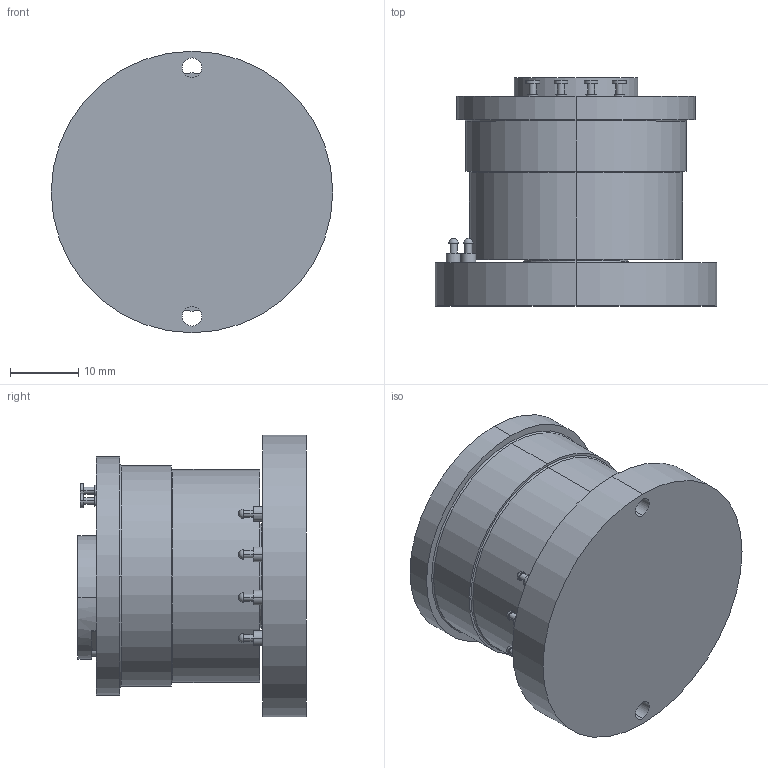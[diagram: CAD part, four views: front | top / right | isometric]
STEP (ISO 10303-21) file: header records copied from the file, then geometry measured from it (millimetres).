
FILE_DESCRIPTION (( 'STEP AP203' ), '1' );
FILE_NAME ('1017695.STEP', '2021-06-07T18:15:57', ( '' ), ( '' ), 'SwSTEP 2.0', 'SolidWorks 2020', '' );
FILE_SCHEMA (( 'CONFIG_CONTROL_DESIGN' ));
Length unit declared in the file: inch
Products named in the file (1): 1017695
Bounding box: 41.26 x 33.45 x 41.26 mm (x, y, z)
Volume: 28188.9 mm3; surface area: 8122.9 mm2
Topology: 1 solids, 1 shells, 305 faces, 761 edges, 506 vertices
Faces by surface type: plane 146, cylinder 74, bspline 67, cone 8, torus 6, sphere 4
Entity records: 12812 total; most frequent: CARTESIAN_POINT 5772, ORIENTED_EDGE 1498, DIRECTION 1277, EDGE_CURVE 749, VERTEX_POINT 498, VECTOR 431, LINE 431, AXIS2_PLACEMENT_3D 423
